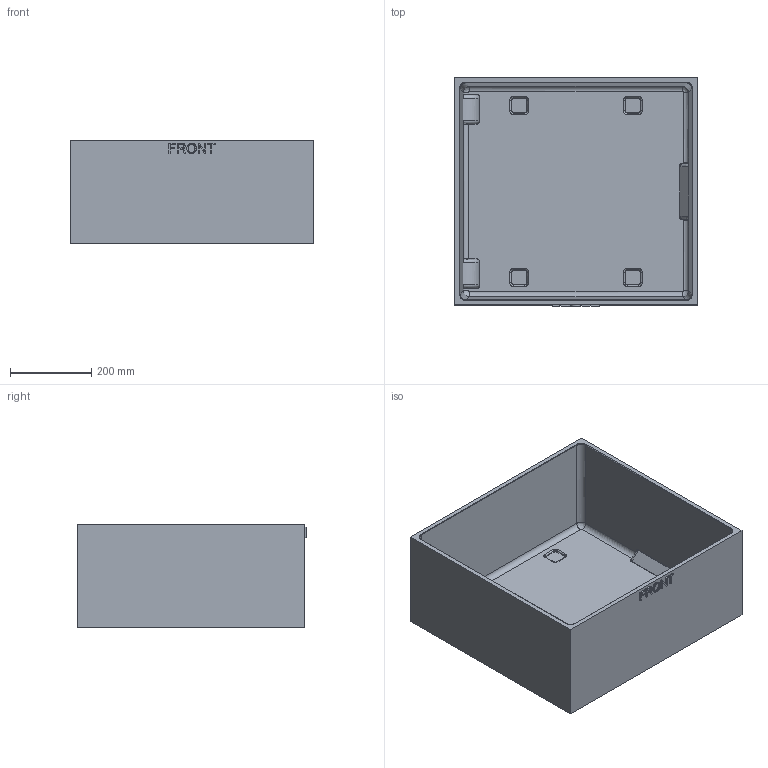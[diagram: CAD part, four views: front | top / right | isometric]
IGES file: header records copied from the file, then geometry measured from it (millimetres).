
Start section: Comment
Global section: file name: 2875-base_internal_tub.igs; native system:  By UGS Corp.; preprocessor: XPlus GENERIC/IGES 3.0; author: Author; organization: Title; date: 20100514.093134; units: millimetre
Bounding box: 596.9 x 561.98 x 254 mm (x, y, z)
Surface area: 1748450.7 mm2 (no closed solid volume)
Topology: 0 solids, 0 shells, 233 faces, 1200 edges, 1200 vertices
Faces by surface type: bspline 233
